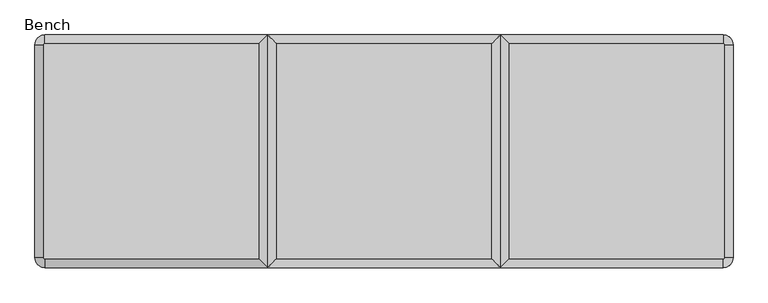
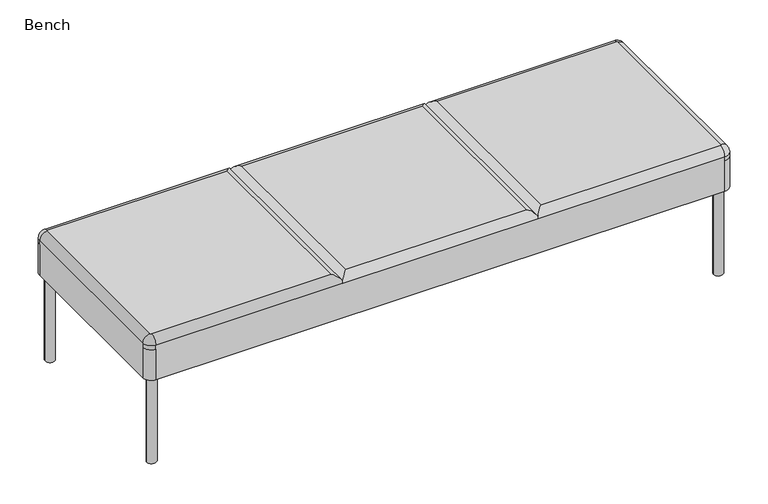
"""IFC4 building model written with IfcOpenShell, lengths in millimetres: furniture geometry, Noora : Bench."""

from ifc_helpers import new_model, si_unit, point, frame, frame_2d, origin, origin_with_axes, place, context, project, spatial, circle_curve, ellipse_curve, trimmed, segment, composite_curve, outline, extrude, source, transform, mapped, element, save
from ifc_brep_helpers import plane_surface, cylinder_surface, revolved_surface, advanced_brep


def bench_20c81473(model_context):
    return source(origin(), model_context, "Body", "SolidModel", [
        advanced_brep(
        [(644.0, 24.0, 431.0), (1216.0, 24.0, 431.0), (1216.0, 596.0, 431.0), (644.0, 596.0, 431.0), (1834.0, 24.0, 431.0), (1836.0, 26.0, 431.0), (1836.0, 594.0, 431.0), (1834.0, 596.0, 431.0), (1264.0, 596.0, 431.0), (1264.0, 24.0, 431.0), (24.0, 26.0, 431.0), (26.0, 24.0, 431.0), (596.0, 24.0, 431.0), (596.0, 596.0, 431.0), (26.0, 596.0, 431.0), (24.0, 594.0, 431.0), (620.0, 0.0, 407.0), (1240.0, 0.0, 407.0), (620.0, 620.0, 407.0), (1240.0, 620.0, 407.0), (1834.0, 0.0, 407.0), (1860.0, 26.0, 407.0), (1834.0, 620.0, 407.0), (1860.0, 594.0, 407.0), (1834.0, 620.0, 291.0), (1860.0, 594.0, 291.0), (1860.0, 26.0, 291.0), (1834.0, 0.0, 291.0), (26.0, 0.0, 291.0), (0.0, 26.0, 291.0), (0.0, 594.0, 291.0), (26.0, 620.0, 291.0), (0.0, 594.0, 393.0), (26.0, 620.0, 393.0), (0.0, 26.0, 393.0), (0.0, 26.0, 407.0), (0.0, 594.0, 407.0), (26.0, 0.0, 393.0), (1860.0, 26.0, 393.0), (1834.0, 0.0, 393.0), (1834.0, 620.0, 393.0), (1860.0, 594.0, 393.0), (26.0, 0.0, 407.0), (26.0, 620.0, 407.0)],
        [
            (0, 1),
            (1, 2),
            (2, 3),
            (3, 0),
            (4, 5, circle_curve(frame((1834.0, 26.0, 431.0), z_axis=(0.0, 0.0, 1.0), x_axis=(1.0, 0.0, 0.0)), 2.0)),
            (5, 6),
            (6, 7, circle_curve(frame((1834.0, 594.0, 431.0), z_axis=(0.0, 0.0, 1.0), x_axis=(0.0, 1.0, 0.0)), 2.0)),
            (7, 8),
            (8, 9),
            (9, 4),
            (10, 11, circle_curve(frame((26.0, 26.0, 431.0), z_axis=(0.0, 0.0, 1.0), x_axis=(-1.0, 0.0, 0.0)), 2.0)),
            (11, 12),
            (12, 13),
            (13, 14),
            (14, 15, circle_curve(frame((26.0, 594.0, 431.0), z_axis=(0.0, 0.0, 1.0), x_axis=(0.0, 1.0, 0.0)), 2.0)),
            (15, 10),
            (16, 17),
            (17, 1, ellipse_curve(frame((1216.0, 24.0, 407.0), z_axis=(-0.7071067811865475, -0.7071067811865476, 0.0), x_axis=(0.7071067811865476, -0.7071067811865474, 0.0)), 33.9411255, 24.0)),
            (0, 16, ellipse_curve(frame((644.0, 24.0, 407.0), z_axis=(0.7071067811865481, -0.7071067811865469, 0.0), x_axis=(0.7071067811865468, 0.7071067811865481, 0.0)), 33.9411255, 24.0)),
            (3, 18, ellipse_curve(frame((644.0, 596.0, 407.0), z_axis=(-0.7071067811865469, -0.7071067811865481, 0.0), x_axis=(0.7071067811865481, -0.7071067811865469, 0.0)), 33.9411255, 24.0)),
            (18, 16),
            (2, 19, ellipse_curve(frame((1216.0, 596.0, 407.0), z_axis=(-0.7071067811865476, 0.7071067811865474, 0.0), x_axis=(-0.7071067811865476, -0.7071067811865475, 0.0)), 33.9411255, 24.0)),
            (19, 18),
            (17, 19),
            (20, 21, circle_curve(frame((1834.0, 26.0, 407.0), z_axis=(0.0, 0.0, 1.0), x_axis=(1.0, 0.0, 0.0)), 26.0)),
            (21, 5, circle_curve(frame((1836.0, 26.0, 407.0), z_axis=(0.0, -1.0, 0.0), x_axis=(-1.0, 0.0, 0.0)), 24.0)),
            (4, 20, circle_curve(frame((1834.0, 24.0, 407.0), z_axis=(1.0, 0.0, 0.0), x_axis=(0.0, 1.0, 0.0)), 24.0)),
            (9, 17, ellipse_curve(frame((1264.0, 24.0, 407.0), z_axis=(0.7071067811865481, -0.7071067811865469, 0.0), x_axis=(0.7071067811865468, 0.7071067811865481, 0.0)), 33.9411255, 24.0)),
            (17, 20),
            (8, 19, ellipse_curve(frame((1264.0, 596.0, 407.0), z_axis=(-0.7071067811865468, -0.7071067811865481, 0.0), x_axis=(0.7071067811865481, -0.7071067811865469, 0.0)), 33.9411255, 24.0)),
            (7, 22, circle_curve(frame((1834.0, 596.0, 407.0), z_axis=(-1.0, 0.0, 0.0), x_axis=(0.0, -1.0, 0.0)), 24.0)),
            (22, 19),
            (6, 23, circle_curve(frame((1836.0, 594.0, 407.0), z_axis=(0.0, 1.0, 0.0), x_axis=(-1.0, 0.0, 0.0)), 24.0)),
            (23, 22, circle_curve(frame((1834.0, 594.0, 407.0), z_axis=(0.0, 0.0, 1.0), x_axis=(0.0, 1.0, 0.0)), 26.0)),
            (21, 23),
            (24, 25, circle_curve(frame((1834.0, 594.0, 291.0), z_axis=(0.0, 0.0, -1.0), x_axis=(1.0, 0.0, 0.0)), 26.0)),
            (25, 26),
            (26, 27, circle_curve(frame((1834.0, 26.0, 291.0), z_axis=(0.0, 0.0, -1.0), x_axis=(1.0, 0.0, 0.0)), 26.0)),
            (27, 28),
            (28, 29, circle_curve(frame((26.0, 26.0, 291.0), z_axis=(0.0, 0.0, -1.0), x_axis=(1.0, 0.0, 0.0)), 26.0)),
            (29, 30),
            (30, 31, circle_curve(frame((26.0, 594.0, 291.0), z_axis=(0.0, 0.0, -1.0), x_axis=(1.0, 0.0, 0.0)), 26.0)),
            (31, 24),
            (30, 32),
            (32, 33, circle_curve(frame((26.0, 594.0, 393.0), z_axis=(0.0, 0.0, -1.0), x_axis=(1.0, 0.0, 0.0)), 26.0)),
            (33, 31),
            (29, 34),
            (34, 35),
            (35, 36),
            (36, 32),
            (28, 37),
            (37, 34, circle_curve(frame((26.0, 26.0, 393.0), z_axis=(0.0, 0.0, -1.0), x_axis=(1.0, 0.0, 0.0)), 26.0)),
            (26, 38),
            (38, 39, circle_curve(frame((1834.0, 26.0, 393.0), z_axis=(0.0, 0.0, -1.0), x_axis=(1.0, 0.0, 0.0)), 26.0)),
            (39, 27),
            (24, 40),
            (40, 41, circle_curve(frame((1834.0, 594.0, 393.0), z_axis=(0.0, 0.0, -1.0), x_axis=(1.0, 0.0, 0.0)), 26.0)),
            (41, 25),
            (21, 38),
            (41, 23),
            (20, 39),
            (40, 22),
            (16, 42),
            (42, 37),
            (33, 43),
            (43, 18),
            (42, 35, circle_curve(frame((26.0, 26.0, 407.0), z_axis=(0.0, 0.0, -1.0), x_axis=(-1.0, 0.0, 0.0)), 26.0)),
            (42, 11, circle_curve(frame((26.0, 24.0, 407.0), z_axis=(-1.0, 0.0, 0.0), x_axis=(0.0, 1.0, 0.0)), 24.0)),
            (10, 35, circle_curve(frame((24.0, 26.0, 407.0), z_axis=(0.0, -1.0, 0.0), x_axis=(1.0, 0.0, 0.0)), 24.0)),
            (16, 12, ellipse_curve(frame((596.0, 24.0, 407.0), z_axis=(-0.7071067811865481, -0.7071067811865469, 0.0), x_axis=(-0.7071067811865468, 0.7071067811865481, 0.0)), 33.9411255, 24.0)),
            (18, 13, ellipse_curve(frame((596.0, 596.0, 407.0), z_axis=(0.7071067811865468, -0.7071067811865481, 0.0), x_axis=(-0.7071067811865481, -0.7071067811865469, 0.0)), 33.9411255, 24.0)),
            (43, 14, circle_curve(frame((26.0, 596.0, 407.0), z_axis=(1.0, 0.0, 0.0), x_axis=(0.0, -1.0, 0.0)), 24.0)),
            (36, 43, circle_curve(frame((26.0, 594.0, 407.0), z_axis=(0.0, 0.0, -1.0), x_axis=(0.0, 1.0, 0.0)), 26.0)),
            (36, 15, circle_curve(frame((24.0, 594.0, 407.0), z_axis=(0.0, 1.0, 0.0), x_axis=(1.0, 0.0, 0.0)), 24.0)),
        ],
        [
            plane_surface(frame((40.0, 596.0, 431.0), z_axis=(0.0, 0.0, 1.0), x_axis=(-1.0, 0.0, 0.0))),
            cylinder_surface(frame((1240.0, 24.0, 407.0), z_axis=(1.0, 0.0, 0.0), x_axis=(0.0, 1.0, 0.0)), 24.0),
            cylinder_surface(frame((644.0, 0.0, 407.0), z_axis=(0.0, -1.0, 0.0), x_axis=(1.0, 0.0, 0.0)), 24.0),
            cylinder_surface(frame((620.0, 596.0, 407.0), z_axis=(-1.0, 0.0, 0.0), x_axis=(0.0, -1.0, 0.0)), 24.0),
            cylinder_surface(frame((1216.0, 620.0, 407.0), z_axis=(0.0, 1.0, 0.0), x_axis=(-1.0, 0.0, 0.0)), 24.0),
            revolved_surface(trimmed(ellipse_curve(frame((1836.0, 26.0, 407.0), z_axis=(0.0, 1.0, 0.0), x_axis=(-1.0, 0.0, 0.0)), 24.0, 24.0), [point((1836.0, 26.0, 431.0))], [point((1860.0, 26.0, 407.0))], True, "CARTESIAN"), (1834.0, 26.0, 393.0), (0.0, 0.0, -1.0)),
            cylinder_surface(frame((1834.0, 24.0, 407.0), z_axis=(1.0, 0.0, 0.0), x_axis=(0.0, 1.0, 0.0)), 24.0),
            cylinder_surface(frame((1264.0, 0.0, 407.0), z_axis=(0.0, -1.0, 0.0), x_axis=(1.0, 0.0, 0.0)), 24.0),
            cylinder_surface(frame((1240.0, 596.0, 407.0), z_axis=(-1.0, 0.0, 0.0), x_axis=(0.0, -1.0, 0.0)), 24.0),
            revolved_surface(trimmed(ellipse_curve(frame((1834.0, 596.0, 407.0), z_axis=(-1.0, 0.0, 0.0), x_axis=(0.0, -1.0, 0.0)), 24.0, 24.0), [point((1834.0, 596.0, 431.0))], [point((1834.0, 620.0, 407.0))], True, "CARTESIAN"), (1834.0, 594.0, 393.0), (0.0, 0.0, -1.0)),
            cylinder_surface(frame((1836.0, 594.0, 407.0), z_axis=(0.0, 1.0, 0.0), x_axis=(-1.0, 0.0, 0.0)), 24.0),
            plane_surface(frame((-25.0, 620.0, 291.0), z_axis=(0.0, 0.0, -1.0), x_axis=(1.0, 0.0, 0.0))),
            cylinder_surface(frame((26.0, 594.0, 291.0), z_axis=(0.0, 0.0, 1.0), x_axis=(1.0, 0.0, 0.0)), 26.0),
            plane_surface(frame((0.0, 594.0, 393.0), z_axis=(-1.0, 0.0, 0.0), x_axis=(0.0, 0.0, -1.0))),
            cylinder_surface(frame((26.0, 26.0, 291.0), z_axis=(0.0, 0.0, 1.0), x_axis=(1.0, 0.0, 0.0)), 26.0),
            cylinder_surface(frame((1834.0, 26.0, 291.0), z_axis=(0.0, 0.0, 1.0), x_axis=(1.0, 0.0, 0.0)), 26.0),
            cylinder_surface(frame((1834.0, 594.0, 291.0), z_axis=(0.0, 0.0, 1.0), x_axis=(1.0, 0.0, 0.0)), 26.0),
            plane_surface(frame((1860.0, 594.0, 407.0), z_axis=(1.0, 0.0, 0.0), x_axis=(0.0, -1.0, 0.0))),
            cylinder_surface(frame((1834.0, 26.0, 393.0), z_axis=(0.0, 0.0, -1.0), x_axis=(1.0, 0.0, 0.0)), 26.0),
            cylinder_surface(frame((1834.0, 594.0, 393.0), z_axis=(0.0, 0.0, -1.0), x_axis=(0.0, 1.0, 0.0)), 26.0),
            plane_surface(frame((1240.0, 0.0, 407.0), z_axis=(0.0, -1.0, 0.0), x_axis=(-1.0, 0.0, 0.0))),
            plane_surface(frame((620.0, 620.0, 407.0), z_axis=(0.0, 1.0, 0.0), x_axis=(1.0, 0.0, 0.0))),
            cylinder_surface(frame((26.0, 26.0, 393.0), z_axis=(0.0, 0.0, 1.0), x_axis=(-1.0, 0.0, 0.0)), 26.0),
            revolved_surface(trimmed(ellipse_curve(frame((24.0, 26.0, 407.0), z_axis=(0.0, 1.0, 0.0), x_axis=(1.0, 0.0, 0.0)), 24.0, 24.0), [point((0.0, 26.0, 407.0))], [point((24.0, 26.0, 431.0))], True, "CARTESIAN"), (26.0, 26.0, 393.0), (0.0, 0.0, 1.0)),
            cylinder_surface(frame((26.0, 24.0, 407.0), z_axis=(-1.0, 0.0, 0.0), x_axis=(0.0, 1.0, 0.0)), 24.0),
            cylinder_surface(frame((596.0, 0.0, 407.0), z_axis=(0.0, -1.0, 0.0), x_axis=(-1.0, 0.0, 0.0)), 24.0),
            cylinder_surface(frame((620.0, 596.0, 407.0), z_axis=(1.0, 0.0, 0.0), x_axis=(0.0, -1.0, 0.0)), 24.0),
            cylinder_surface(frame((26.0, 594.0, 393.0), z_axis=(0.0, 0.0, 1.0), x_axis=(0.0, 1.0, 0.0)), 26.0),
            revolved_surface(trimmed(ellipse_curve(frame((26.0, 596.0, 407.0), z_axis=(1.0, 0.0, 0.0), x_axis=(0.0, -1.0, 0.0)), 24.0, 24.0), [point((26.0, 620.0, 407.0))], [point((26.0, 596.0, 431.0))], True, "CARTESIAN"), (26.0, 594.0, 393.0), (0.0, 0.0, 1.0)),
            cylinder_surface(frame((24.0, 594.0, 407.0), z_axis=(0.0, 1.0, 0.0), x_axis=(1.0, 0.0, 0.0)), 24.0),
        ],
        [
            (0, [[1, 2, 3, 4]]),
            (0, [[5, 6, 7, 8, 9, 10]]),
            (0, [[11, 12, 13, 14, 15, 16]]),
            (1, [[17, 18, -1, 19]]),
            (2, [[-19, -4, 20, 21]]),
            (3, [[-20, -3, 22, 23]]),
            (4, [[-18, 24, -22, -2]]),
            (5, [[25, 26, -5, 27]]),
            (6, [[-27, -10, 28, 29]]),
            (7, [[-28, -9, 30, -24]]),
            (8, [[-30, -8, 31, 32]]),
            (9, [[-31, -7, 33, 34]]),
            (10, [[-26, 35, -33, -6]]),
            (11, [[36, 37, 38, 39, 40, 41, 42, 43]]),
            (12, [[-42, 44, 45, 46]]),
            (13, [[-41, 47, 48, 49, 50, -44]]),
            (14, [[-40, 51, 52, -47]]),
            (15, [[-38, 53, 54, 55]]),
            (16, [[-36, 56, 57, 58]]),
            (17, [[59, -53, -37, -58, 60, -35]]),
            (18, [[-59, -25, 61, -54]]),
            (19, [[62, -34, -60, -57]]),
            (20, [[-17, 63, 64, -51, -39, -55, -61, -29]]),
            (21, [[-23, -32, -62, -56, -43, -46, 65, 66]]),
            (22, [[67, -48, -52, -64]]),
            (23, [[-67, 68, -11, 69]]),
            (24, [[-68, -63, 70, -12]]),
            (25, [[-70, -21, 71, -13]]),
            (26, [[-71, -66, 72, -14]]),
            (27, [[-65, -45, -50, 73]]),
            (28, [[-72, -73, 74, -15]]),
            (29, [[-69, -16, -74, -49]]),
        ],
    ),
        extrude(outline(composite_curve([segment(trimmed(circle_curve(frame_2d((30.0, 590.0)), 15.0), [point((15.0, 590.0))], [point((45.0, 590.0))], False, "CARTESIAN"), True, "CONTINUOUS"), segment(trimmed(circle_curve(frame_2d((30.0, 590.0)), 15.0), [point((45.0, 590.0))], [point((15.0, 590.0))], False, "CARTESIAN"), True, "CONTINUOUS")], self_intersect=False)), origin_with_axes(), (0.0, 0.0, 1.0), 290.0),
        extrude(outline(composite_curve([segment(trimmed(circle_curve(frame_2d((30.0, 30.0)), 15.0), [point((15.0, 30.0))], [point((45.0, 30.0))], False, "CARTESIAN"), True, "CONTINUOUS"), segment(trimmed(circle_curve(frame_2d((30.0, 30.0)), 15.0), [point((45.0, 30.0))], [point((15.0, 30.0))], False, "CARTESIAN"), True, "CONTINUOUS")], self_intersect=False)), origin_with_axes(), (0.0, 0.0, 1.0), 290.0),
        extrude(outline(composite_curve([segment(trimmed(circle_curve(frame_2d((1830.0, 30.0)), 15.0), [point((1815.0, 30.0))], [point((1845.0, 30.0))], False, "CARTESIAN"), True, "CONTINUOUS"), segment(trimmed(circle_curve(frame_2d((1830.0, 30.0)), 15.0), [point((1845.0, 30.0))], [point((1815.0, 30.0))], False, "CARTESIAN"), True, "CONTINUOUS")], self_intersect=False)), origin_with_axes(), (0.0, 0.0, 1.0), 290.0),
        extrude(outline(composite_curve([segment(trimmed(circle_curve(frame_2d((1830.0, 590.0)), 15.0), [point((1815.0, 590.0))], [point((1845.0, 590.0))], False, "CARTESIAN"), True, "CONTINUOUS"), segment(trimmed(circle_curve(frame_2d((1830.0, 590.0)), 15.0), [point((1845.0, 590.0))], [point((1815.0, 590.0))], False, "CARTESIAN"), True, "CONTINUOUS")], self_intersect=False)), origin_with_axes(), (0.0, 0.0, 1.0), 290.0),
    ])


if __name__ == "__main__":
    model = new_model("IFC4")
    model_context = context("Model", 3, world=origin())
    ifc_project = project(units=[si_unit("LENGTHUNIT", "METRE", prefix="MILLI")], contexts=[model_context])
    site = spatial("IfcSite", under=ifc_project)
    building = spatial("IfcBuilding", under=site)
    placement = place(None, origin())
    bench_shape = bench_20c81473(model_context)
    element("IfcFurniture", 1, ObjectType="Noora : Bench", at=placement, inside=building, context=model_context, shape_type="MappedRepresentation", body=[
        mapped(bench_shape, transform((0.0, 0.0, 0.0), x_axis=(1.0, 0.0, 0.0), y_axis=(0.0, 1.0, 0.0), z_axis=(0.0, 0.0, 1.0))),
    ])
    save(model, "model.ifc")
